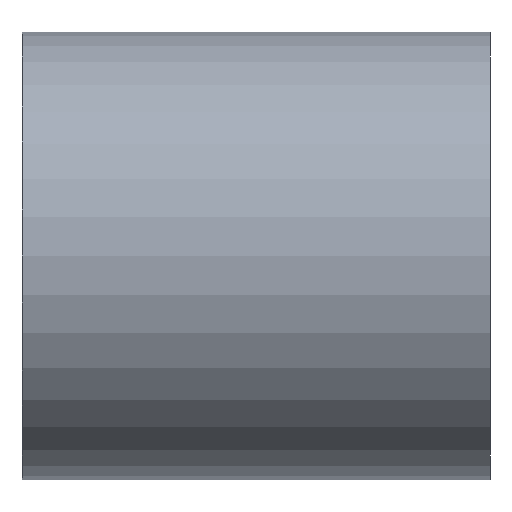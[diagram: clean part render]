
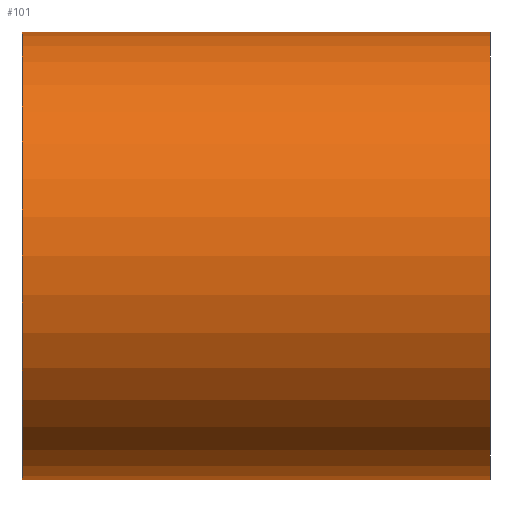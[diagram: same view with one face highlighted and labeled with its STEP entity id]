
A CAD part, front view. The second image highlights one B-rep face of the part: STEP entity #101.
In plain terms, the highlighted cylindrical face has radius 44 mm (diameter 88 mm), a full revolution.
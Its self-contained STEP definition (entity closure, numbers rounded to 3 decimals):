
#25=FACE_BOUND('',#48,.T.);
#33=FACE_OUTER_BOUND('',#47,.T.);
#47=EDGE_LOOP('',(#87));
#48=EDGE_LOOP('',(#88));
#57=CIRCLE('',#117,44.);
#58=CIRCLE('',#119,44.);
#65=VERTEX_POINT('',#174);
#66=VERTEX_POINT('',#177);
#73=EDGE_CURVE('',#65,#65,#57,.T.);
#74=EDGE_CURVE('',#66,#66,#58,.T.);
#87=ORIENTED_EDGE('',*,*,#73,.F.);
#88=ORIENTED_EDGE('',*,*,#74,.F.);
#94=CYLINDRICAL_SURFACE('',#118,44.);
#101=ADVANCED_FACE('',(#33,#25),#94,.T.);
#117=AXIS2_PLACEMENT_3D('',#175,#147,#148);
#118=AXIS2_PLACEMENT_3D('',#176,#149,#150);
#119=AXIS2_PLACEMENT_3D('',#178,#151,#152);
#147=DIRECTION('center_axis',(-1.,0.,0.));
#148=DIRECTION('ref_axis',(0.,-1.,0.));
#149=DIRECTION('center_axis',(1.,0.,0.));
#150=DIRECTION('ref_axis',(0.,-1.,0.));
#151=DIRECTION('center_axis',(1.,0.,0.));
#152=DIRECTION('ref_axis',(0.,-1.,0.));
#174=CARTESIAN_POINT('',(-46.,44.,0.));
#175=CARTESIAN_POINT('Origin',(-46.,0.,0.));
#176=CARTESIAN_POINT('Origin',(0.,0.,0.));
#177=CARTESIAN_POINT('',(46.,44.,0.));
#178=CARTESIAN_POINT('Origin',(46.,0.,0.));
